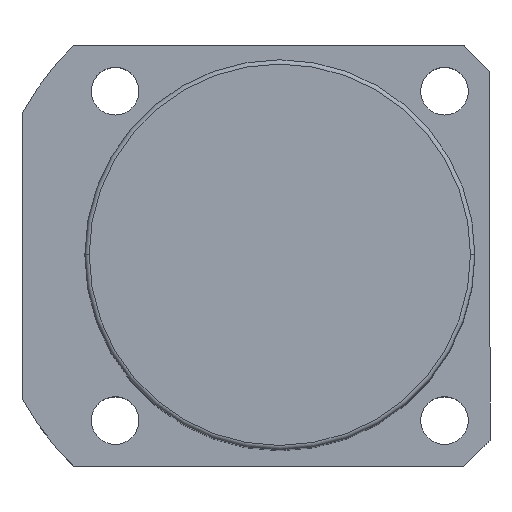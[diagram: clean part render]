
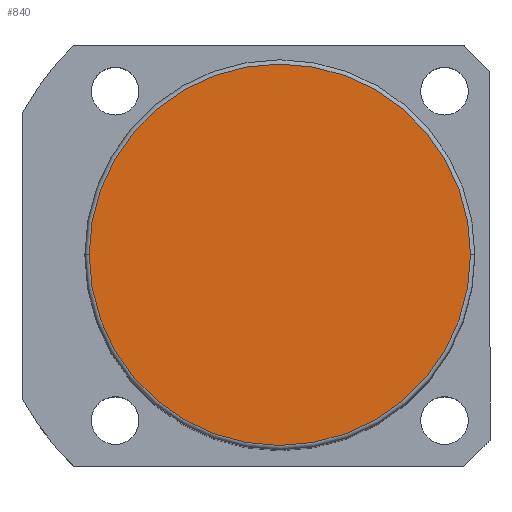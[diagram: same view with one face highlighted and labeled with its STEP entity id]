
A CAD part, top view. The second image highlights one B-rep face of the part: STEP entity #840.
In plain terms, the highlighted planar face has unit normal (0, 0, 1).
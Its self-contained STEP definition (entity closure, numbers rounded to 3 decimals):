
#109 = DIRECTION ( 'NONE',  ( 0., 0., 1. ) ) ;
#176 = DIRECTION ( 'NONE',  ( 1., 0., 0. ) ) ;
#373 = DIRECTION ( 'NONE',  ( 0., 0., 1. ) ) ;
#637 = AXIS2_PLACEMENT_3D ( 'NONE', #4865, #373, #176 ) ;
#796 = FACE_OUTER_BOUND ( 'NONE', #5982, .T. ) ;
#840 = ADVANCED_FACE ( 'NONE', ( #796 ), #7024, .T. ) ;
#846 = CIRCLE ( 'NONE', #7160, 44. ) ;
#1137 = EDGE_CURVE ( 'NONE', #2093, #6005, #3835, .T. ) ;
#1366 = ORIENTED_EDGE ( 'NONE', *, *, #5637, .T. ) ;
#1386 = ORIENTED_EDGE ( 'NONE', *, *, #1137, .T. ) ;
#2093 = VERTEX_POINT ( 'NONE', #3775 ) ;
#3460 = CARTESIAN_POINT ( 'NONE',  ( 0., 0., 161.5 ) ) ;
#3775 = CARTESIAN_POINT ( 'NONE',  ( 44., 0., 161.5 ) ) ;
#3835 = CIRCLE ( 'NONE', #4010, 44. ) ;
#4010 = AXIS2_PLACEMENT_3D ( 'NONE', #5148, #5126, #5076 ) ;
#4028 = DIRECTION ( 'NONE',  ( 1., 0., 0. ) ) ;
#4588 = CARTESIAN_POINT ( 'NONE',  ( -44., 0., 161.5 ) ) ;
#4865 = CARTESIAN_POINT ( 'NONE',  ( 0., 0., 161.5 ) ) ;
#5076 = DIRECTION ( 'NONE',  ( 1., 0., 0. ) ) ;
#5126 = DIRECTION ( 'NONE',  ( 0., 0., 1. ) ) ;
#5148 = CARTESIAN_POINT ( 'NONE',  ( 0., 0., 161.5 ) ) ;
#5637 = EDGE_CURVE ( 'NONE', #6005, #2093, #846, .T. ) ;
#5982 = EDGE_LOOP ( 'NONE', ( #1386, #1366 ) ) ;
#6005 = VERTEX_POINT ( 'NONE', #4588 ) ;
#7024 = PLANE ( 'NONE',  #637 ) ;
#7160 = AXIS2_PLACEMENT_3D ( 'NONE', #3460, #109, #4028 ) ;
